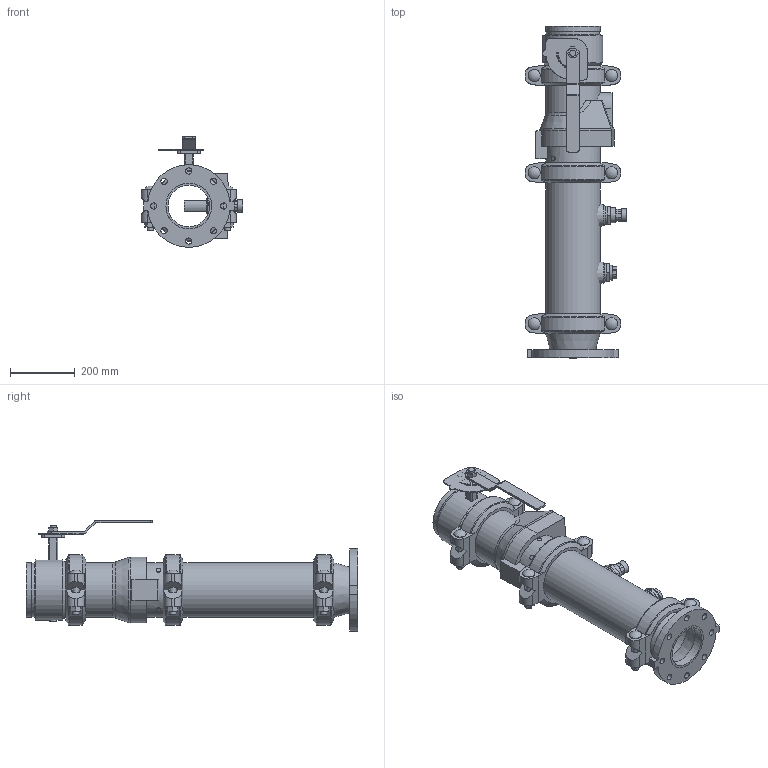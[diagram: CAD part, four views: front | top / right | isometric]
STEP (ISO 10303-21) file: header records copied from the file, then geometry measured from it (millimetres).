
FILE_DESCRIPTION(/* description */ ('VIC DVI PUMP DROP VERT S/380 (OGSxFLG) (S/924-0.75)','CAx-IF Rec.Pracs.---Representation and Presentation of Product Manufacturing Information (PMI)---4.0---2014-10-13'),/* implementation_level */ '2;1');
FILE_NAME(/* name */ 'C:\Users\Public\Documents\Victaulic.Temp\A765\Victaulic_IPS_Vertical DVI_CL 150_Series 380 (OGSxFLG)_924 (0.75)_06.0x05.0 (150x125).stp',/* time_stamp */ '2022-07-25T11:12:43+02:00',/* author */ ('Vjadhav'),/* organization */ ('Victaulic'),/* preprocessor_version */ 'ST-DEVELOPER v18',/* originating_system */ 'Autodesk Inventor 2020',/* authorisation */ '');
FILE_SCHEMA (('AUTOMOTIVE_DESIGN { 1 0 10303 214 3 1 1 }','AP242_MANAGED_MODEL_BASED_3D_ENGINEERING_MIM_LF { 1 0 10303 442 1 1 4 }'));
Length unit declared in the file: inch
Products named in the file (9): 380_924 (0.75)-06.0x05.0; 741-05.0; 050-06.0x05.0; Pipe-06.0x04.0; 177N-06.0; 761-06.0; 779-06.0; 923-04.0x0.75; 924-04.0x0.75
Assembly tree (10 placements, depth 2):
  380_924 (0.75)-06.0x05.0
    741-05.0
    050-06.0x05.0
    177N-06.0  x3
    Pipe-06.0x04.0
    761-06.0
    779-06.0
    923-04.0x0.75
    924-04.0x0.75
Bounding box: 313.48 x 1022.35 x 339.38 mm (x, y, z)
Volume: 11197480.1 mm3; surface area: 1851513.4 mm2
Topology: 10 solids, 11 shells, 591 faces, 1543 edges, 1032 vertices
Faces by surface type: plane 345, cylinder 200, cone 20, torus 18, sphere 6, bspline 2
Full cylindrical faces by diameter (mm): 4.826 x10, 8.636 x4, 13.716 x4, 19.05 x16, 22.86 x1, 26.67 x2, 37.694 x6, 38.608 x1, 45.974 x4, 55.118 x1, 55.626 x2, 128.194 x1, 137.033 x1, 141.3 x3, 154.051 x4, 155.575 x3, 163.957 x7, 168.275 x19, 185.42 x1
Entity records: 14175 total; most frequent: CARTESIAN_POINT 2808, DIRECTION 2351, ORIENTED_EDGE 2114, EDGE_CURVE 1057, AXIS2_PLACEMENT_3D 897, VERTEX_POINT 712, LINE 557, VECTOR 557
